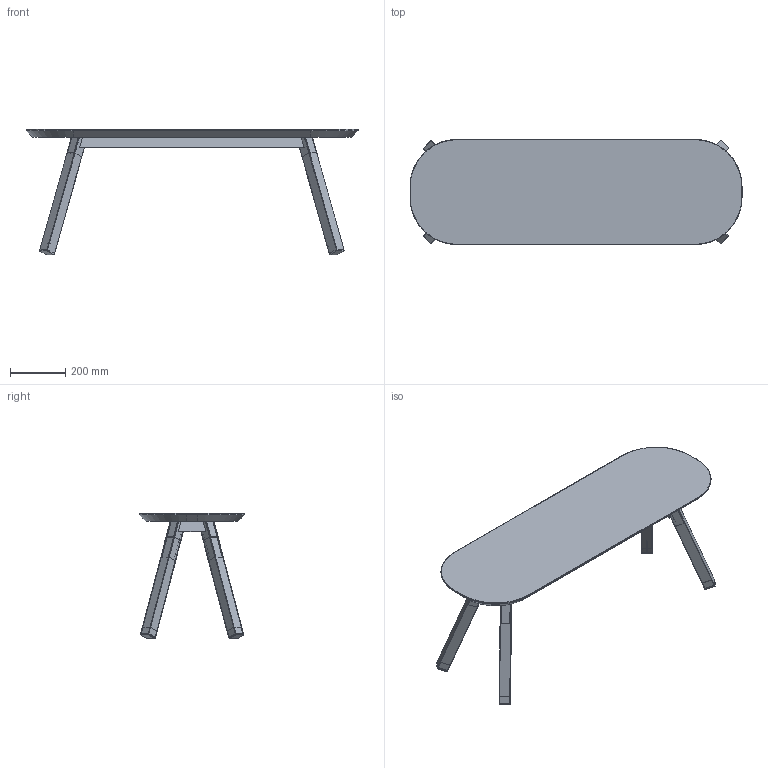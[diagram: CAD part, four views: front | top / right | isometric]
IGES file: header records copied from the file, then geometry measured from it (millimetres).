
Start section: START RECORD GO HERE.
Global section: file name: RS_Y&M_Bench_120_IGS.igs; native system: DASSAULT SYSTEMES CATIA V5 R21 - www.3ds.com; preprocessor: CATIA Version 5 Release 21 ; author: DISSENY; organization: DISSENY-PC; date: 20170509.132643; units: millimetre
Bounding box: 1200 x 380 x 454.1 mm (x, y, z)
Surface area: 2104438.1 mm2 (no closed solid volume)
Topology: 0 solids, 0 shells, 1296 faces, 6608 edges, 6608 vertices
Faces by surface type: plane 744, revolution 552
